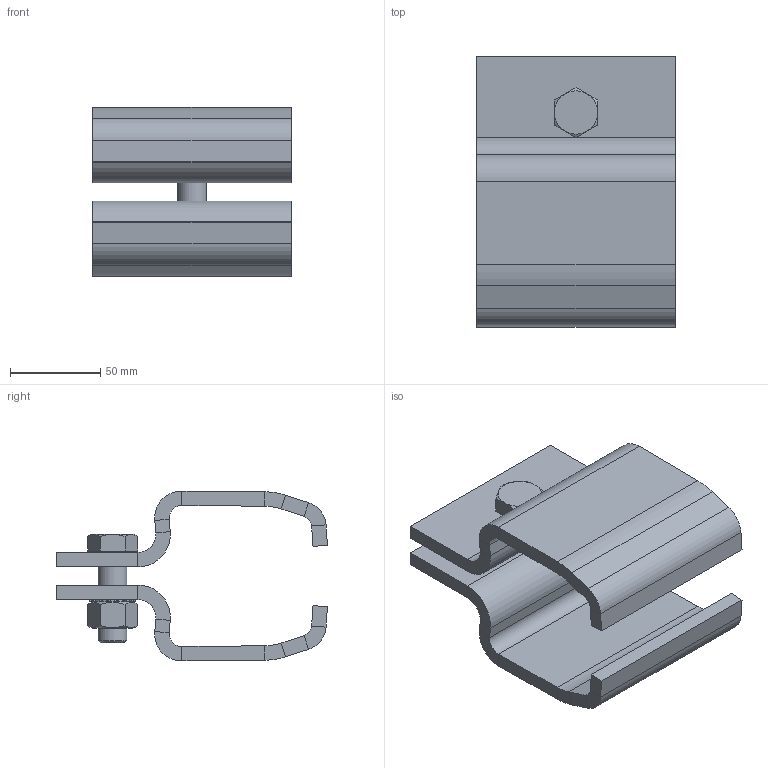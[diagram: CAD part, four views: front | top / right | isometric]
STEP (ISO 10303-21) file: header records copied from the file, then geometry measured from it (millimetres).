
FILE_DESCRIPTION(/* description */ ('Klemme Nr.4'),/* implementation_level */ '2;1');
FILE_NAME(/* name */ 'Q:\sge-ma\Produktmanagement-STB\STB\Workspace\TraceParts\Aufhängeklemme\010336750.stp',/* time_stamp */ '2018-02-21T11:44:34+01:00',/* author */ ('avschreier'),/* organization */ (''),/* preprocessor_version */ 'ST-DEVELOPER v16.1',/* originating_system */ 'Autodesk Inventor 2016',/* authorisation */ '');
FILE_SCHEMA (('CONFIG_CONTROL_DESIGN'));
Length unit declared in the file: millimetre
Products named in the file (5): 000302109; DIN_EN_ISO_4032-M16_en; DIN_6798-A_17_en; DIN_EN_ISO_4017-M16x50_en; 010336750
Assembly tree (5 placements, depth 2):
  010336750
    000302109  x2
    DIN_EN_ISO_4032-M16_en
    DIN_6798-A_17_en
    DIN_EN_ISO_4017-M16x50_en
Bounding box: 110 x 150 x 94.1 mm (x, y, z)
Volume: 344476 mm3; surface area: 98844.8 mm2
Topology: 5 solids, 5 shells, 223 faces, 557 edges, 346 vertices
Faces by surface type: plane 116, cylinder 95, cone 12
Full cylindrical faces by diameter (mm): 13.835 x1, 14.917 x1, 16 x1, 17 x3, 22 x1
Entity records: 5681 total; most frequent: DIRECTION 1012, CARTESIAN_POINT 1010, ORIENTED_EDGE 930, EDGE_CURVE 465, AXIS2_PLACEMENT_3D 377, VERTEX_POINT 303, LINE 258, VECTOR 258
